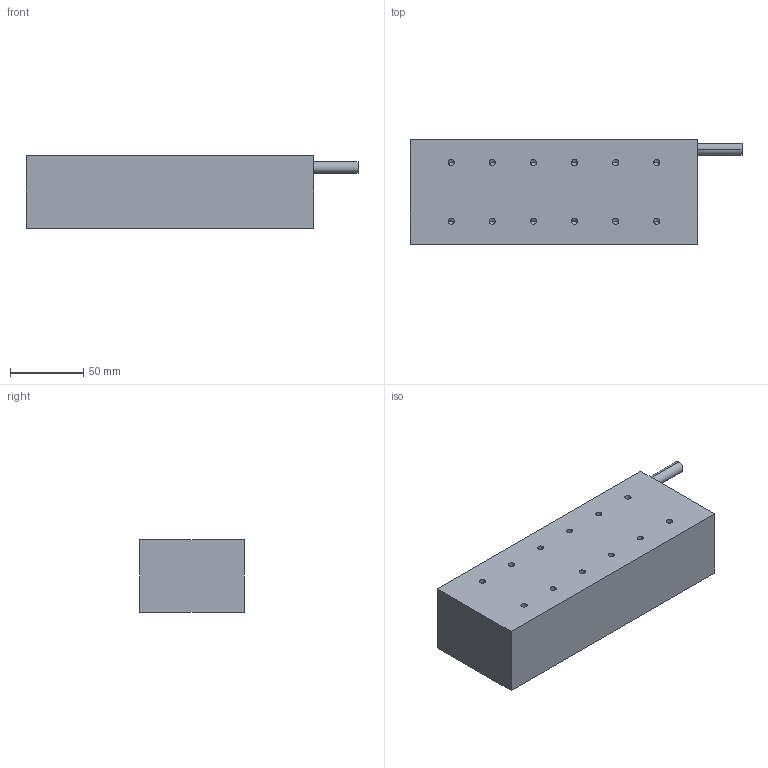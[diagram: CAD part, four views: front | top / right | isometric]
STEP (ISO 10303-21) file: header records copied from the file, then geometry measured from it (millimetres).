
FILE_DESCRIPTION (( 'STEP AP214' ), '1' );
FILE_NAME ('WKM50B雄赽.STEP', '2025-09-05T11:44:53', ( '' ), ( '' ), 'SwSTEP 2.0', 'SolidWorks 2016', '' );
FILE_SCHEMA (( 'AUTOMOTIVE_DESIGN' ));
Length unit declared in the file: millimetre
Products named in the file (1): WKM50B雄赽
Bounding box: 226 x 71 x 49.3 mm (x, y, z)
Volume: 686582.4 mm3; surface area: 55810.7 mm2
Topology: 1 solids, 1 shells, 57 faces, 138 edges, 72 vertices
Faces by surface type: cylinder 26, cone 24, plane 7
Entity records: 1782 total; most frequent: DIRECTION 282, CARTESIAN_POINT 244, ORIENTED_EDGE 228, EDGE_CURVE 114, AXIS2_PLACEMENT_3D 110, VERTEX_POINT 72, EDGE_LOOP 70, LINE 62
